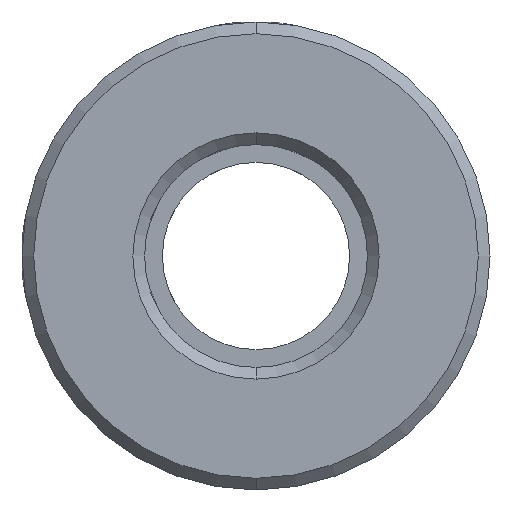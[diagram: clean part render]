
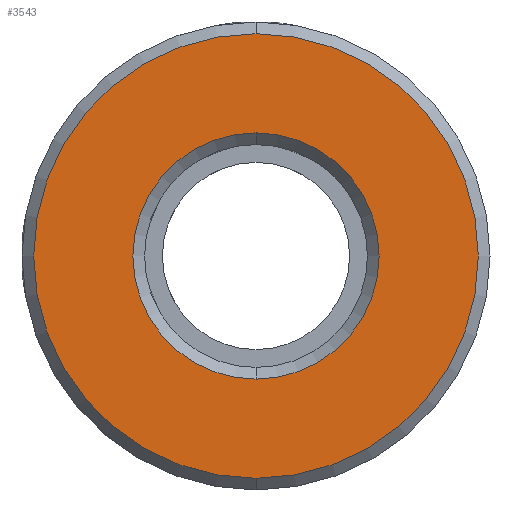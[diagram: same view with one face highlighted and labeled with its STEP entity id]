
A CAD part, front view. The second image highlights one B-rep face of the part: STEP entity #3543.
In plain terms, the highlighted planar face has unit normal (0, -1, 0).
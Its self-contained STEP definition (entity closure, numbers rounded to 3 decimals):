
#48 = ORIENTED_EDGE ( 'NONE', *, *, #2121, .T. ) ;
#105 = VERTEX_POINT ( 'NONE', #2488 ) ;
#122 = CIRCLE ( 'NONE', #3122, 9.5 ) ;
#187 = FACE_OUTER_BOUND ( 'NONE', #2595, .T. ) ;
#385 = ORIENTED_EDGE ( 'NONE', *, *, #2374, .T. ) ;
#470 = CARTESIAN_POINT ( 'NONE',  ( -10.188, -0.277, 0.046 ) ) ;
#487 = DIRECTION ( 'NONE',  ( 0., -1., 0. ) ) ;
#654 = CIRCLE ( 'NONE', #888, 9.5 ) ;
#695 = DIRECTION ( 'NONE',  ( 0., 0., 1. ) ) ;
#724 = CARTESIAN_POINT ( 'NONE',  ( -10.188, -0.277, 0.046 ) ) ;
#733 = VERTEX_POINT ( 'NONE', #845 ) ;
#789 = CARTESIAN_POINT ( 'NONE',  ( -10.188, -0.277, -9.454 ) ) ;
#845 = CARTESIAN_POINT ( 'NONE',  ( -10.188, -0.277, -5.217 ) ) ;
#888 = AXIS2_PLACEMENT_3D ( 'NONE', #3568, #3259, #695 ) ;
#1058 = CIRCLE ( 'NONE', #1294, 5.263 ) ;
#1086 = VERTEX_POINT ( 'NONE', #789 ) ;
#1184 = AXIS2_PLACEMENT_3D ( 'NONE', #470, #1321, #3514 ) ;
#1294 = AXIS2_PLACEMENT_3D ( 'NONE', #3600, #3070, #3365 ) ;
#1321 = DIRECTION ( 'NONE',  ( 0., 1., 0. ) ) ;
#1330 = EDGE_CURVE ( 'NONE', #733, #1778, #1058, .T. ) ;
#1559 = PLANE ( 'NONE',  #2170 ) ;
#1567 = ORIENTED_EDGE ( 'NONE', *, *, #2830, .T. ) ;
#1778 = VERTEX_POINT ( 'NONE', #2984 ) ;
#1796 = DIRECTION ( 'NONE',  ( 0., 1., 0. ) ) ;
#2077 = DIRECTION ( 'NONE',  ( 0., 0., 1. ) ) ;
#2121 = EDGE_CURVE ( 'NONE', #1086, #105, #122, .T. ) ;
#2170 = AXIS2_PLACEMENT_3D ( 'NONE', #724, #1796, #2077 ) ;
#2201 = DIRECTION ( 'NONE',  ( 0., 0., 1. ) ) ;
#2374 = EDGE_CURVE ( 'NONE', #1778, #733, #3348, .T. ) ;
#2488 = CARTESIAN_POINT ( 'NONE',  ( -10.188, -0.277, 9.546 ) ) ;
#2595 = EDGE_LOOP ( 'NONE', ( #1567, #48 ) ) ;
#2703 = ORIENTED_EDGE ( 'NONE', *, *, #1330, .T. ) ;
#2767 = CARTESIAN_POINT ( 'NONE',  ( -10.188, -0.277, 0.046 ) ) ;
#2824 = EDGE_LOOP ( 'NONE', ( #2703, #385 ) ) ;
#2830 = EDGE_CURVE ( 'NONE', #105, #1086, #654, .T. ) ;
#2984 = CARTESIAN_POINT ( 'NONE',  ( -10.188, -0.277, 5.308 ) ) ;
#3070 = DIRECTION ( 'NONE',  ( 0., 1., 0. ) ) ;
#3122 = AXIS2_PLACEMENT_3D ( 'NONE', #2767, #487, #2201 ) ;
#3259 = DIRECTION ( 'NONE',  ( 0., -1., 0. ) ) ;
#3348 = CIRCLE ( 'NONE', #1184, 5.263 ) ;
#3365 = DIRECTION ( 'NONE',  ( 0., 0., 1. ) ) ;
#3514 = DIRECTION ( 'NONE',  ( 0., 0., 1. ) ) ;
#3543 = ADVANCED_FACE ( 'NONE', ( #187, #3546 ), #1559, .F. ) ;
#3546 = FACE_BOUND ( 'NONE', #2824, .T. ) ;
#3568 = CARTESIAN_POINT ( 'NONE',  ( -10.188, -0.277, 0.046 ) ) ;
#3600 = CARTESIAN_POINT ( 'NONE',  ( -10.188, -0.277, 0.046 ) ) ;
